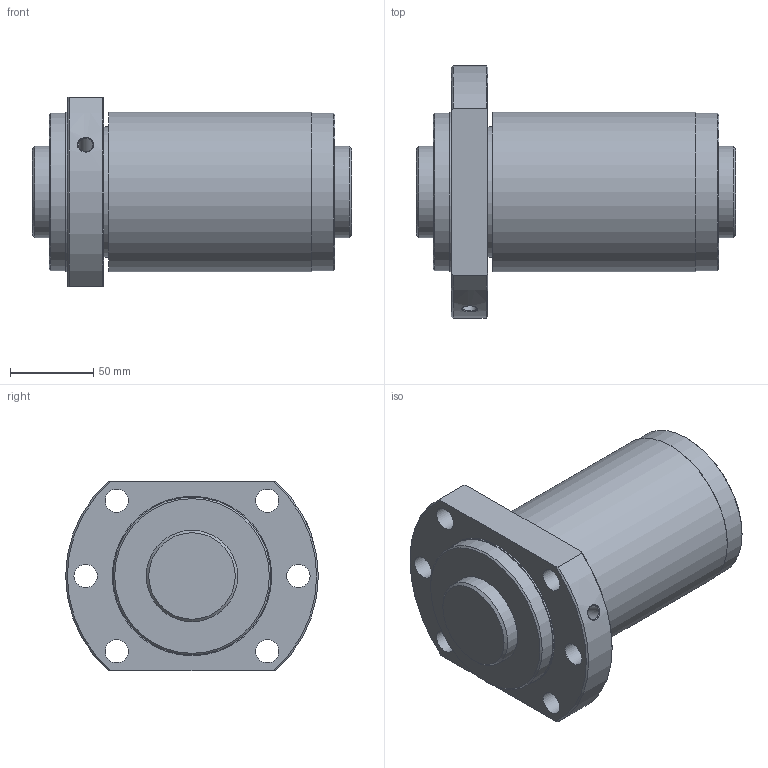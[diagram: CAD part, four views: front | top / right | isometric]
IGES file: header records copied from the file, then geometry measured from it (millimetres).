
Start section: Data from Parasolid IGES Translator 26.0.171, Copyright(c) 2006 Siemens PLM Software. All Rights Reserved.
Global section: file name: SBK5536-7.6RRG0+192LC0(0000).igs; native system: By Siemens PLM Incorporated; preprocessor: XPlus GENERIC/IGES 26.0.171; author: Noname; organization: Noname; date: 20240528.112050; units: millimetre
Bounding box: 192 x 152 x 114 mm (x, y, z)
Surface area: 157726.8 mm2 (no closed solid volume)
Topology: 0 solids, 0 shells, 37 faces, 167 edges, 143 vertices
Faces by surface type: revolution 26, extrusion 11
